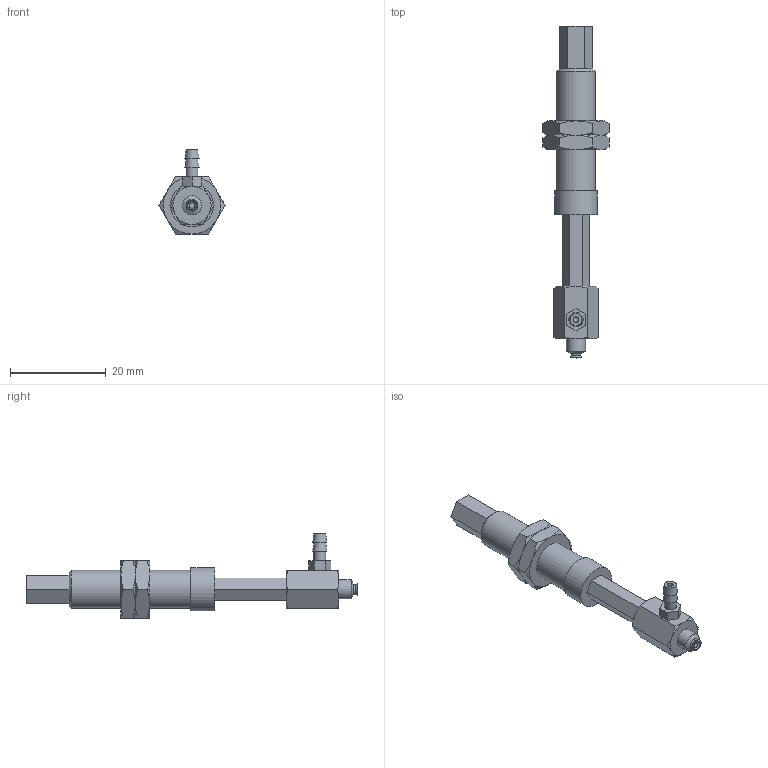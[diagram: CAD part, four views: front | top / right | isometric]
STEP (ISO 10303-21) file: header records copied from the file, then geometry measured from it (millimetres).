
FILE_DESCRIPTION(('STEP AP203'),'1');
FILE_NAME('-T.stp','2025-04-10T02:10:28',(' '),(' '),'Spatial InterOp 3D',' ',' ');
FILE_SCHEMA(('CONFIG_CONTROL_DESIGN'));
Length unit declared in the file: millimetre
Products named in the file (7): BNABPFYH-2A-15-※-T; CONNECTOR-H-2A-15; Nut-2A-15-h; NAPFTH-2A-15-FBODY; NAPFTH-2A-15-MBODY; BPFG-2A-※; T (2)
Assembly tree (7 placements, depth 2):
  BNABPFYH-2A-15-※-T
    CONNECTOR-H-2A-15
    Nut-2A-15-h  x2
    NAPFTH-2A-15-FBODY
    NAPFTH-2A-15-MBODY
    BPFG-2A-※
    T (2)
Bounding box: 13.86 x 69.5 x 17.6 mm (x, y, z)
Volume: 3284 mm3; surface area: 4030.5 mm2
Topology: 7 solids, 7 shells, 155 faces, 333 edges, 204 vertices
Faces by surface type: plane 76, cone 54, cylinder 17, torus 7, bspline 1
Full cylindrical faces by diameter (mm): 1.2 x3, 2 x2, 2.459 x2, 2.5 x1, 3 x4, 4 x1, 7.188 x2, 8 x1, 9 x1
Entity records: 3925 total; most frequent: CARTESIAN_POINT 919, DIRECTION 546, ORIENTED_EDGE 480, EDGE_CURVE 240, AXIS2_PLACEMENT_3D 221, EDGE_LOOP 194, VERTEX_POINT 170, FACE_OUTER_BOUND 156
